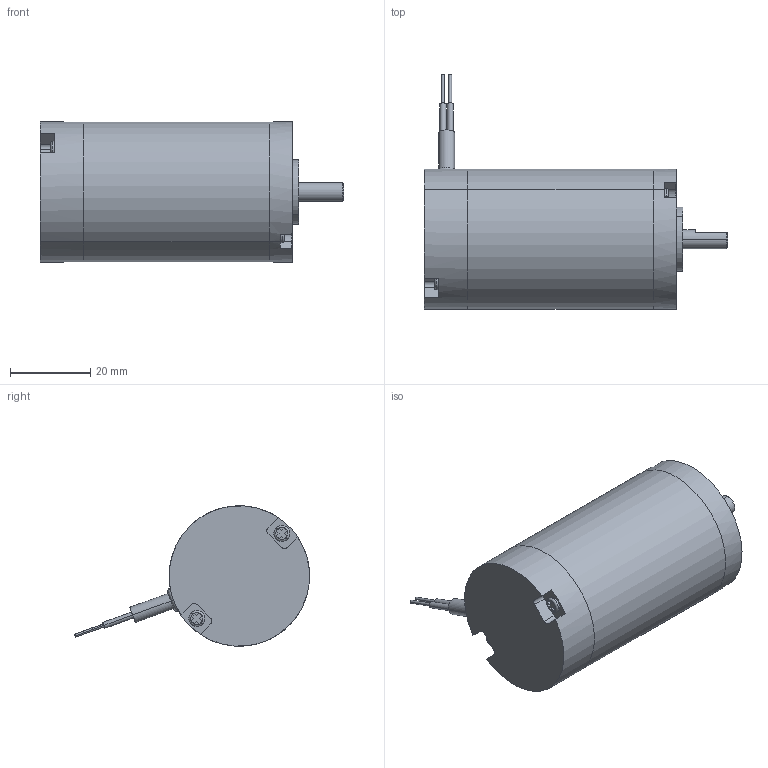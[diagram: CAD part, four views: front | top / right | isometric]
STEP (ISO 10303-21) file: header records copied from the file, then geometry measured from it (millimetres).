
FILE_DESCRIPTION (( 'STEP AP203' ), '1' );
FILE_NAME ('s14247.step', '2018-12-07T18:50:41', ( '' ), ( '' ), 'SwSTEP 2.0', 'SolidWorks 2017', '' );
FILE_SCHEMA (( 'CONFIG_CONTROL_DESIGN' ));
Length unit declared in the file: inch
Products named in the file (1): s14247
Bounding box: 75.36 x 58.45 x 34.91 mm (x, y, z)
Volume: 60443.2 mm3; surface area: 13742.8 mm2
Topology: 10 solids, 10 shells, 161 faces, 377 edges, 246 vertices
Faces by surface type: plane 93, cylinder 52, torus 13, cone 3
Entity records: 4758 total; most frequent: CARTESIAN_POINT 865, DIRECTION 827, ORIENTED_EDGE 754, EDGE_CURVE 377, AXIS2_PLACEMENT_3D 296, VERTEX_POINT 246, VECTOR 235, LINE 235
